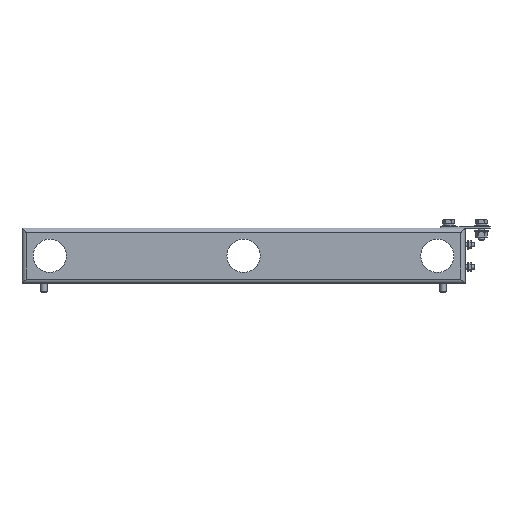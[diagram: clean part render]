
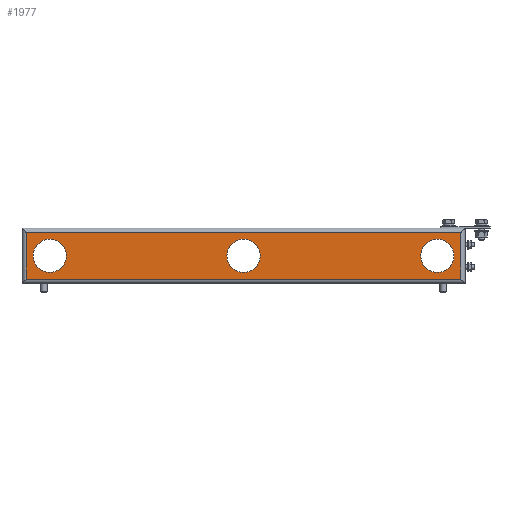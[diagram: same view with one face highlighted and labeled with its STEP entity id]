
A CAD part, left-side view. The second image highlights one B-rep face of the part: STEP entity #1977.
In plain terms, the highlighted planar face has unit normal (-1, 0, 0).
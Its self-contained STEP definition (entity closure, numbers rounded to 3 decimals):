
#1977=ADVANCED_FACE('',(#2302,#2304,#2306,#2308),#2310,.T.);
#2302=FACE_BOUND('',#2303,.T.);
#2303=EDGE_LOOP('',(#5682,#5683,#5684,#5685));
#2304=FACE_BOUND('',#2305,.T.);
#2305=EDGE_LOOP('',(#5686));
#2306=FACE_BOUND('',#2307,.T.);
#2307=EDGE_LOOP('',(#5687));
#2308=FACE_BOUND('',#2309,.T.);
#2309=EDGE_LOOP('',(#5688));
#2310=PLANE('',#2311);
#2311=AXIS2_PLACEMENT_3D('',#2312,#2313,#2314);
#2312=CARTESIAN_POINT('',(0.,400.,42.));
#2313=DIRECTION('',(-1.,0.,0.));
#2314=DIRECTION('',(0.,0.,-1.));
#5682=ORIENTED_EDGE('',*,*,#6294,.T.);
#5683=ORIENTED_EDGE('',*,*,#6295,.T.);
#5684=ORIENTED_EDGE('',*,*,#6284,.T.);
#5685=ORIENTED_EDGE('',*,*,#6293,.F.);
#5686=ORIENTED_EDGE('',*,*,#6296,.T.);
#5687=ORIENTED_EDGE('',*,*,#6297,.T.);
#5688=ORIENTED_EDGE('',*,*,#6298,.T.);
#6284=EDGE_CURVE('',#6594,#6592,#6595,.T.);
#6293=EDGE_CURVE('',#6608,#6592,#6610,.T.);
#6294=EDGE_CURVE('',#6608,#6611,#6612,.T.);
#6295=EDGE_CURVE('',#6611,#6594,#6613,.T.);
#6296=EDGE_CURVE('',#6614,#6614,#6615,.F.);
#6297=EDGE_CURVE('',#6616,#6616,#6617,.F.);
#6298=EDGE_CURVE('',#6618,#6618,#6619,.F.);
#6592=VERTEX_POINT('',#7122);
#6594=VERTEX_POINT('',#7127);
#6595=LINE('',#7128,#7129);
#6608=VERTEX_POINT('',#7160);
#6610=LINE('',#7165,#7166);
#6611=VERTEX_POINT('',#7168);
#6612=LINE('',#7169,#7170);
#6613=LINE('',#7172,#7173);
#6614=VERTEX_POINT('',#7175);
#6615=CIRCLE('',#7176,30.);
#6616=VERTEX_POINT('',#7180);
#6617=CIRCLE('',#7181,30.);
#6618=VERTEX_POINT('',#7185);
#6619=CIRCLE('',#7186,30.);
#7122=CARTESIAN_POINT('',(0.,-392.,42.));
#7127=CARTESIAN_POINT('',(0.,-392.,-42.));
#7128=CARTESIAN_POINT('',(0.,-392.,-42.));
#7129=VECTOR('',#7130,1.);
#7130=DIRECTION('',(0.,0.,1.));
#7160=CARTESIAN_POINT('',(0.,392.,42.));
#7165=CARTESIAN_POINT('',(0.,392.,42.));
#7166=VECTOR('',#7167,1.);
#7167=DIRECTION('',(0.,-1.,0.));
#7168=CARTESIAN_POINT('',(0.,392.,-42.));
#7169=CARTESIAN_POINT('',(0.,392.,42.));
#7170=VECTOR('',#7171,1.);
#7171=DIRECTION('',(0.,0.,-1.));
#7172=CARTESIAN_POINT('',(0.,392.,-42.));
#7173=VECTOR('',#7174,1.);
#7174=DIRECTION('',(0.,-1.,0.));
#7175=CARTESIAN_POINT('',(0.,-30.,0.));
#7176=AXIS2_PLACEMENT_3D('',#7177,#7178,#7179);
#7177=CARTESIAN_POINT('',(0.,0.,0.));
#7178=DIRECTION('',(-1.,0.,0.));
#7179=DIRECTION('',(0.,-1.,0.));
#7180=CARTESIAN_POINT('',(0.,-380.,0.));
#7181=AXIS2_PLACEMENT_3D('',#7182,#7183,#7184);
#7182=CARTESIAN_POINT('',(0.,-350.,0.));
#7183=DIRECTION('',(-1.,0.,0.));
#7184=DIRECTION('',(0.,-1.,0.));
#7185=CARTESIAN_POINT('',(0.,320.,0.));
#7186=AXIS2_PLACEMENT_3D('',#7187,#7188,#7189);
#7187=CARTESIAN_POINT('',(0.,350.,0.));
#7188=DIRECTION('',(-1.,0.,0.));
#7189=DIRECTION('',(0.,-1.,0.));
